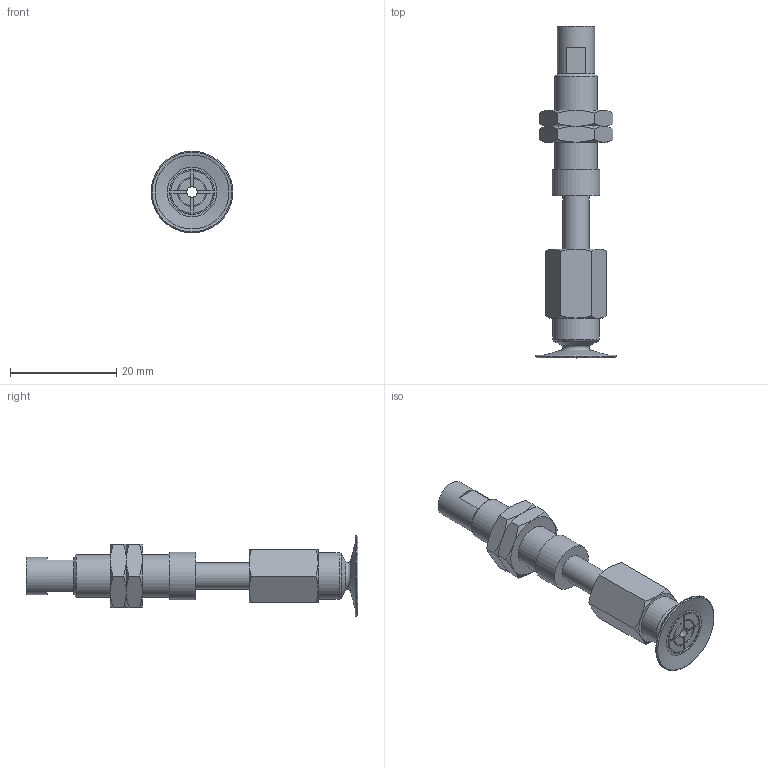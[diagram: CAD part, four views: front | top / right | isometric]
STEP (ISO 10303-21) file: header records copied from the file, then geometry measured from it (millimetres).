
FILE_DESCRIPTION(('STEP AP203'),'1');
FILE_NAME('.stp','2025-08-26T08:51:33',(' '),(' '),'Spatial InterOp 3D',' ',' ');
FILE_SCHEMA(('CONFIG_CONTROL_DESIGN'));
Length unit declared in the file: millimetre
Products named in the file (6): BNABPATS-15B-10-※; ADAPTER; NAPATS-10A-10--M; NAPATS-10A-10--F; Nut-10A-S; BPAG-15B-※_3D
Assembly tree (6 placements, depth 2):
  BNABPATS-15B-10-※
    ADAPTER
    NAPATS-10A-10--M
    NAPATS-10A-10--F
    Nut-10A-S  x2
    BPAG-15B-※_3D
Bounding box: 15.4 x 62.5 x 15.4 mm (x, y, z)
Volume: 3520.8 mm3; surface area: 4309.6 mm2
Topology: 6 solids, 6 shells, 155 faces, 345 edges, 209 vertices
Faces by surface type: plane 61, cone 55, cylinder 29, torus 10
Full cylindrical faces by diameter (mm): 2 x3, 4 x2, 4.134 x1, 5 x2, 6 x2, 7 x1, 7.188 x2, 8 x1, 8.5 x1, 8.7 x1, 9 x1
Entity records: 3928 total; most frequent: CARTESIAN_POINT 926, DIRECTION 570, ORIENTED_EDGE 500, EDGE_CURVE 250, AXIS2_PLACEMENT_3D 244, EDGE_LOOP 184, VERTEX_POINT 170, FACE_OUTER_BOUND 158
